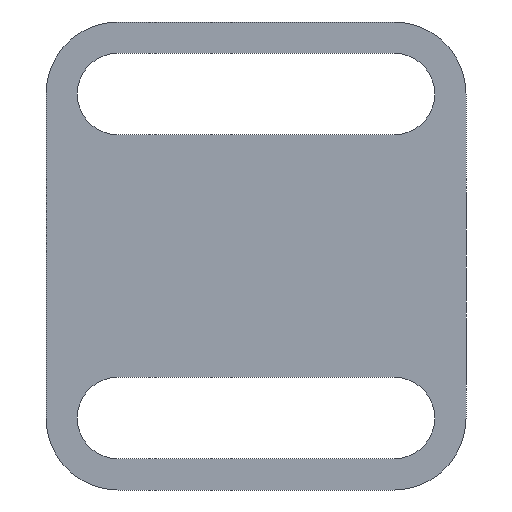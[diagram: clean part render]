
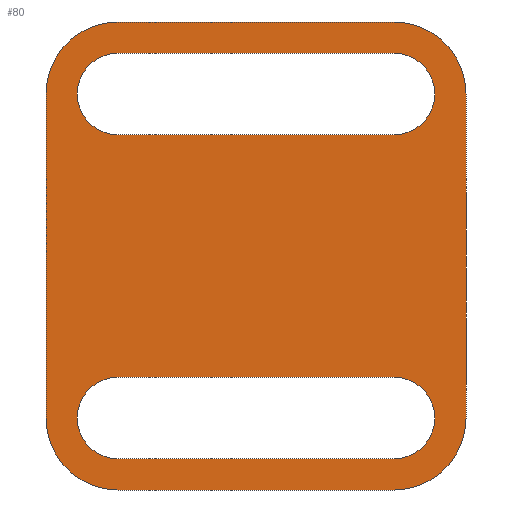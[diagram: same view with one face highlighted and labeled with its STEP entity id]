
A CAD part, front view. The second image highlights one B-rep face of the part: STEP entity #80.
In plain terms, the highlighted planar face has unit normal (0, -1, 0).
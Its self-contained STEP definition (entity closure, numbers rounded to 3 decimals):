
#80 = ADVANCED_FACE( '', ( #117, #118, #119 ), #120, .F. );
#117 = FACE_BOUND( '', #180, .T. );
#118 = FACE_OUTER_BOUND( '', #181, .T. );
#119 = FACE_BOUND( '', #182, .T. );
#120 = PLANE( '', #183 );
#180 = EDGE_LOOP( '', ( #274, #275, #276, #277 ) );
#181 = EDGE_LOOP( '', ( #278, #279, #280, #281, #282, #283, #284, #285 ) );
#182 = EDGE_LOOP( '', ( #286, #287, #288, #289 ) );
#183 = AXIS2_PLACEMENT_3D( '', #290, #291, #292 );
#274 = ORIENTED_EDGE( '', *, *, #481, .T. );
#275 = ORIENTED_EDGE( '', *, *, #482, .T. );
#276 = ORIENTED_EDGE( '', *, *, #483, .T. );
#277 = ORIENTED_EDGE( '', *, *, #484, .T. );
#278 = ORIENTED_EDGE( '', *, *, #485, .F. );
#279 = ORIENTED_EDGE( '', *, *, #486, .F. );
#280 = ORIENTED_EDGE( '', *, *, #487, .F. );
#281 = ORIENTED_EDGE( '', *, *, #488, .F. );
#282 = ORIENTED_EDGE( '', *, *, #489, .F. );
#283 = ORIENTED_EDGE( '', *, *, #490, .F. );
#284 = ORIENTED_EDGE( '', *, *, #467, .F. );
#285 = ORIENTED_EDGE( '', *, *, #491, .F. );
#286 = ORIENTED_EDGE( '', *, *, #492, .T. );
#287 = ORIENTED_EDGE( '', *, *, #493, .T. );
#288 = ORIENTED_EDGE( '', *, *, #494, .T. );
#289 = ORIENTED_EDGE( '', *, *, #495, .T. );
#290 = CARTESIAN_POINT( '', ( 6., 0., -13.5 ) );
#291 = DIRECTION( '', ( 0., 1., 0. ) );
#292 = DIRECTION( '', ( 0., 0., 1. ) );
#467 = EDGE_CURVE( '', #550, #551, #552, .T. );
#481 = EDGE_CURVE( '', #577, #578, #579, .T. );
#482 = EDGE_CURVE( '', #578, #580, #581, .T. );
#483 = EDGE_CURVE( '', #580, #582, #583, .T. );
#484 = EDGE_CURVE( '', #582, #577, #584, .T. );
#485 = EDGE_CURVE( '', #585, #586, #587, .T. );
#486 = EDGE_CURVE( '', #588, #585, #589, .T. );
#487 = EDGE_CURVE( '', #590, #588, #591, .T. );
#488 = EDGE_CURVE( '', #592, #590, #593, .T. );
#489 = EDGE_CURVE( '', #594, #592, #595, .T. );
#490 = EDGE_CURVE( '', #551, #594, #596, .T. );
#491 = EDGE_CURVE( '', #586, #550, #597, .T. );
#492 = EDGE_CURVE( '', #598, #599, #600, .T. );
#493 = EDGE_CURVE( '', #599, #601, #602, .T. );
#494 = EDGE_CURVE( '', #601, #603, #604, .T. );
#495 = EDGE_CURVE( '', #603, #598, #605, .T. );
#550 = VERTEX_POINT( '', #673 );
#551 = VERTEX_POINT( '', #674 );
#552 = CIRCLE( '', #675, 6. );
#577 = VERTEX_POINT( '', #708 );
#578 = VERTEX_POINT( '', #709 );
#579 = LINE( '', #710, #711 );
#580 = VERTEX_POINT( '', #712 );
#581 = CIRCLE( '', #713, 3.4 );
#582 = VERTEX_POINT( '', #714 );
#583 = LINE( '', #715, #716 );
#584 = CIRCLE( '', #717, 3.4 );
#585 = VERTEX_POINT( '', #718 );
#586 = VERTEX_POINT( '', #719 );
#587 = CIRCLE( '', #720, 6. );
#588 = VERTEX_POINT( '', #721 );
#589 = LINE( '', #722, #723 );
#590 = VERTEX_POINT( '', #724 );
#591 = CIRCLE( '', #725, 6. );
#592 = VERTEX_POINT( '', #726 );
#593 = LINE( '', #727, #728 );
#594 = VERTEX_POINT( '', #729 );
#595 = CIRCLE( '', #730, 6. );
#596 = LINE( '', #731, #732 );
#597 = LINE( '', #733, #734 );
#598 = VERTEX_POINT( '', #735 );
#599 = VERTEX_POINT( '', #736 );
#600 = LINE( '', #737, #738 );
#601 = VERTEX_POINT( '', #739 );
#602 = CIRCLE( '', #740, 3.4 );
#603 = VERTEX_POINT( '', #741 );
#604 = LINE( '', #742, #743 );
#605 = CIRCLE( '', #744, 3.4 );
#673 = CARTESIAN_POINT( '', ( 6., 0., -19.5 ) );
#674 = CARTESIAN_POINT( '', ( 0., 0., -13.5 ) );
#675 = AXIS2_PLACEMENT_3D( '', #829, #830, #831 );
#708 = CARTESIAN_POINT( '', ( 29., 0., -16.9 ) );
#709 = CARTESIAN_POINT( '', ( 6., 0., -16.9 ) );
#710 = CARTESIAN_POINT( '', ( 29., 0., -16.9 ) );
#711 = VECTOR( '', #855, 1000. );
#712 = CARTESIAN_POINT( '', ( 6., 0., -10.1 ) );
#713 = AXIS2_PLACEMENT_3D( '', #856, #857, #858 );
#714 = CARTESIAN_POINT( '', ( 29., 0., -10.1 ) );
#715 = CARTESIAN_POINT( '', ( 6., 0., -10.1 ) );
#716 = VECTOR( '', #859, 1000. );
#717 = AXIS2_PLACEMENT_3D( '', #860, #861, #862 );
#718 = CARTESIAN_POINT( '', ( 35., 0., -13.5 ) );
#719 = CARTESIAN_POINT( '', ( 29., 0., -19.5 ) );
#720 = AXIS2_PLACEMENT_3D( '', #863, #864, #865 );
#721 = CARTESIAN_POINT( '', ( 35., 0., 13.5 ) );
#722 = CARTESIAN_POINT( '', ( 35., 0., 13.5 ) );
#723 = VECTOR( '', #866, 1000. );
#724 = CARTESIAN_POINT( '', ( 29., 0., 19.5 ) );
#725 = AXIS2_PLACEMENT_3D( '', #867, #868, #869 );
#726 = CARTESIAN_POINT( '', ( 6., 0., 19.5 ) );
#727 = CARTESIAN_POINT( '', ( 6., 0., 19.5 ) );
#728 = VECTOR( '', #870, 1000. );
#729 = CARTESIAN_POINT( '', ( 0., 0., 13.5 ) );
#730 = AXIS2_PLACEMENT_3D( '', #871, #872, #873 );
#731 = CARTESIAN_POINT( '', ( 0., 0., -13.5 ) );
#732 = VECTOR( '', #874, 1000. );
#733 = CARTESIAN_POINT( '', ( 29., 0., -19.5 ) );
#734 = VECTOR( '', #875, 1000. );
#735 = CARTESIAN_POINT( '', ( 29., 0., 10.1 ) );
#736 = CARTESIAN_POINT( '', ( 6., 0., 10.1 ) );
#737 = CARTESIAN_POINT( '', ( 29., 0., 10.1 ) );
#738 = VECTOR( '', #876, 1000. );
#739 = CARTESIAN_POINT( '', ( 6., 0., 16.9 ) );
#740 = AXIS2_PLACEMENT_3D( '', #877, #878, #879 );
#741 = CARTESIAN_POINT( '', ( 29., 0., 16.9 ) );
#742 = CARTESIAN_POINT( '', ( 6., 0., 16.9 ) );
#743 = VECTOR( '', #880, 1000. );
#744 = AXIS2_PLACEMENT_3D( '', #881, #882, #883 );
#829 = CARTESIAN_POINT( '', ( 6., 0., -13.5 ) );
#830 = DIRECTION( '', ( 0., 1., 0. ) );
#831 = DIRECTION( '', ( 1., 0., 0. ) );
#855 = DIRECTION( '', ( -1., 0., 0. ) );
#856 = CARTESIAN_POINT( '', ( 6., 0., -13.5 ) );
#857 = DIRECTION( '', ( 0., 1., 0. ) );
#858 = DIRECTION( '', ( 1., 0., 0. ) );
#859 = DIRECTION( '', ( 1., 0., 0. ) );
#860 = CARTESIAN_POINT( '', ( 29., 0., -13.5 ) );
#861 = DIRECTION( '', ( 0., 1., 0. ) );
#862 = DIRECTION( '', ( 1., 0., 0. ) );
#863 = CARTESIAN_POINT( '', ( 29., 0., -13.5 ) );
#864 = DIRECTION( '', ( 0., 1., 0. ) );
#865 = DIRECTION( '', ( 1., 0., 0. ) );
#866 = DIRECTION( '', ( 0., 0., -1. ) );
#867 = CARTESIAN_POINT( '', ( 29., 0., 13.5 ) );
#868 = DIRECTION( '', ( 0., 1., 0. ) );
#869 = DIRECTION( '', ( 1., 0., 0. ) );
#870 = DIRECTION( '', ( 1., 0., 0. ) );
#871 = CARTESIAN_POINT( '', ( 6., 0., 13.5 ) );
#872 = DIRECTION( '', ( 0., 1., 0. ) );
#873 = DIRECTION( '', ( 1., 0., 0. ) );
#874 = DIRECTION( '', ( 0., 0., 1. ) );
#875 = DIRECTION( '', ( -1., 0., 0. ) );
#876 = DIRECTION( '', ( -1., 0., 0. ) );
#877 = CARTESIAN_POINT( '', ( 6., 0., 13.5 ) );
#878 = DIRECTION( '', ( 0., 1., 0. ) );
#879 = DIRECTION( '', ( 1., 0., 0. ) );
#880 = DIRECTION( '', ( 1., 0., 0. ) );
#881 = CARTESIAN_POINT( '', ( 29., 0., 13.5 ) );
#882 = DIRECTION( '', ( 0., 1., 0. ) );
#883 = DIRECTION( '', ( 1., 0., 0. ) );
